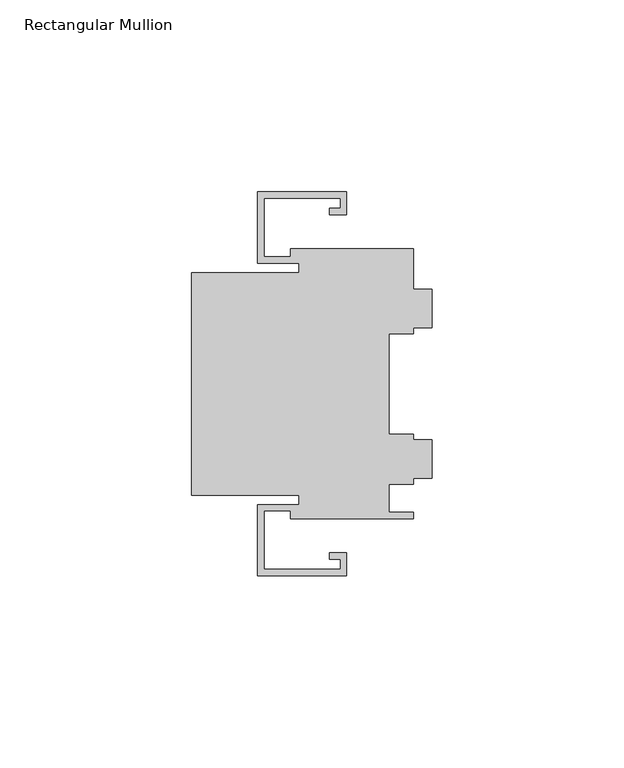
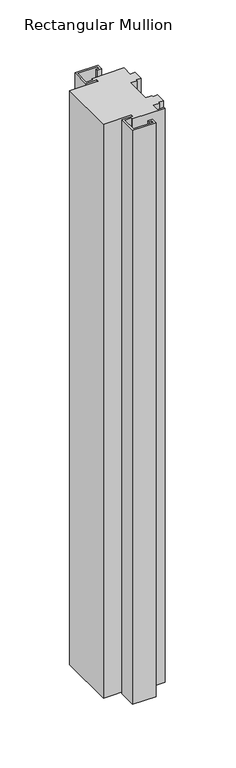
"""IFC4 building model written with IfcOpenShell, lengths in millimetres: member geometry, Rectangular Mullion : Frame-Teknion-OptosLP-Ceiling_Top_Spacer."""

import ifcopenshell
import ifcopenshell.guid

model = None  # the IFC model being written
_history = None  # IfcOwnerHistory: only IFC2X3 demands one
_inside = {}  # id of a spatial element -> (the spatial element, [elements in it])
_under = {}  # id of a project, library or spatial element -> (it, [spatial elements below it])
_declared = {}  # id of a project -> (the project, [libraries it declares])
_typed = {}  # id of a type object -> (the type object, [elements of that type])
_made_of = {}  # id of a material, layer set ... -> (it, [elements and type objects made of it])


def new_model(schema):
    """Start an empty IFC model of exactly this schema.

    Asked for "IFC4X3", IfcOpenShell would pick the latest addendum, in which some entities
    have other attributes; the version numbers below select the first issue.
    IFC2X3 requires an IfcOwnerHistory on every rooted entity: one is made here for all.
    """
    global model, _history
    if schema == "IFC4X3":
        model = ifcopenshell.file(schema_version=(4, 3, 0, 0))
    else:
        model = ifcopenshell.file(schema=schema)
    _inside.clear()
    _under.clear()
    _declared.clear()
    _typed.clear()
    _made_of.clear()
    _history = None
    if model.schema == "IFC2X3":
        org = make("IfcOrganization", Name="unknown")
        user = make(
            "IfcPersonAndOrganization",
            ThePerson=make("IfcPerson", FamilyName="unknown"),
            TheOrganization=org,
        )
        app = make(
            "IfcApplication",
            ApplicationDeveloper=org,
            Version="unknown",
            ApplicationFullName="unknown",
            ApplicationIdentifier="unknown",
        )
        _history = make(
            "IfcOwnerHistory",
            OwningUser=user,
            OwningApplication=app,
            ChangeAction="ADDED",
            CreationDate=0,
        )
    return model


def make(cls, **values):
    """One entity of the class cls with the attributes given. An attribute that is None is left unset."""
    return model.create_entity(
        cls, **{name: value for name, value in values.items() if value is not None}
    )


def rooted(cls, **values):
    """An entity with a GlobalId (a new one), such as an element, a storey or a relation."""
    return make(cls, GlobalId=ifcopenshell.guid.new(), OwnerHistory=_history, **values)


def si_unit(unit_type, name, prefix=None):
    """IfcSIUnit, for example si_unit("LENGTHUNIT", "METRE", prefix="MILLI")."""
    return make("IfcSIUnit", UnitType=unit_type, Prefix=prefix, Name=name)


def assignment(units):
    """IfcUnitAssignment: the units of a project."""
    return None if units is None else make("IfcUnitAssignment", Units=units)


def point(xyz):
    """IfcCartesianPoint."""
    return None if xyz is None else make("IfcCartesianPoint", Coordinates=xyz)


def direction(xyz):
    """IfcDirection."""
    return None if xyz is None else make("IfcDirection", DirectionRatios=xyz)


def frame(location, z_axis=None, x_axis=None):
    """IfcAxis2Placement3D, a coordinate frame: its origin and axes. An axis left out is left unset."""
    return make(
        "IfcAxis2Placement3D",
        Location=point(location),
        Axis=direction(z_axis),
        RefDirection=direction(x_axis),
    )


def origin():
    """The frame at (0, 0, 0) with its axes left unset."""
    return frame((0.0, 0.0, 0.0))


def place(relative_to, where):
    """IfcLocalPlacement: puts the frame where relative to a parent placement (None: the world)."""
    return make(
        "IfcLocalPlacement", PlacementRelTo=relative_to, RelativePlacement=where
    )


def context(
    kind, dimensions, precision=None, world=None, true_north=None, identifier=None
):
    """IfcGeometricRepresentationContext, for example the 3D "Model" context."""
    return make(
        "IfcGeometricRepresentationContext",
        ContextIdentifier=identifier,
        ContextType=kind,
        CoordinateSpaceDimension=dimensions,
        Precision=precision,
        WorldCoordinateSystem=world,
        TrueNorth=true_north,
    )


def project(units=None, contexts=None):
    """IfcProject with its units and contexts."""
    return rooted(
        "IfcProject",
        Name="project",
        RepresentationContexts=contexts,
        UnitsInContext=assignment(units),
    )


def spatial(cls, under=None, at=None, **own):
    """A site, building, storey or space (cls), placed at a placement, below another one or the project."""
    s = rooted(cls, ObjectPlacement=at, **own)
    if under is not None:
        _under.setdefault(under.id(), (under, []))[1].append(s)
    return s


def polyline(points):
    """IfcPolyline through the points."""
    return make("IfcPolyline", Points=[point(p) for p in points])


def outline(outer, holes=None, kind="AREA"):
    """IfcArbitraryClosedProfileDef: a profile drawn as a closed curve; with holes, ...WithVoids."""
    if holes is None:
        return make("IfcArbitraryClosedProfileDef", ProfileType=kind, OuterCurve=outer)
    return make(
        "IfcArbitraryProfileDefWithVoids",
        ProfileType=kind,
        OuterCurve=outer,
        InnerCurves=holes,
    )


def extrude(swept, where, along, depth):
    """IfcExtrudedAreaSolid: the profile swept, set in the frame where, extruded along a direction by depth."""
    return make(
        "IfcExtrudedAreaSolid",
        SweptArea=swept,
        Position=where,
        ExtrudedDirection=direction(along),
        Depth=depth,
    )


def shape(context_of_items, identifier, shape_type, items):
    """IfcShapeRepresentation: the items that make up one representation, for example the "Body"."""
    return make(
        "IfcShapeRepresentation",
        ContextOfItems=context_of_items,
        RepresentationIdentifier=identifier,
        RepresentationType=shape_type,
        Items=items,
    )


def source(mapping_origin, context_of_items, identifier, shape_type, items):
    """IfcRepresentationMap: a shape defined once, which mapped items show again and again."""
    return make(
        "IfcRepresentationMap",
        MappingOrigin=mapping_origin,
        MappedRepresentation=shape(context_of_items, identifier, shape_type, items),
    )


def transform(
    local_origin,
    x_axis=None,
    y_axis=None,
    z_axis=None,
    scale=None,
    scale2=None,
    scale3=None,
    uniform=True,
):
    """IfcCartesianTransformationOperator3D, or its non-uniform kind. x_axis, y_axis, z_axis: its Axis1, 2, 3."""
    if uniform:
        return make(
            "IfcCartesianTransformationOperator3D",
            Axis1=direction(x_axis),
            Axis2=direction(y_axis),
            LocalOrigin=point(local_origin),
            Scale=scale,
            Axis3=direction(z_axis),
        )
    return make(
        "IfcCartesianTransformationOperator3DnonUniform",
        Axis1=direction(x_axis),
        Axis2=direction(y_axis),
        LocalOrigin=point(local_origin),
        Scale=scale,
        Axis3=direction(z_axis),
        Scale2=scale2,
        Scale3=scale3,
    )


def mapped(mapping_source, mapping_target):
    """IfcMappedItem: shows the shape of a source again, moved by a transform."""
    return make(
        "IfcMappedItem", MappingSource=mapping_source, MappingTarget=mapping_target
    )


def made_of(thing, what):
    """Note that an element or type object is made of a material, layer set ...; save() writes the relation."""
    if what is not None:
        _made_of.setdefault(what.id(), (what, []))[1].append(thing)
    return thing


def element(
    cls,
    number,
    at=None,
    inside=None,
    cuts=None,
    type_object=None,
    material=None,
    context=None,
    identifier="Body",
    shape_type=None,
    held_by="IfcProductDefinitionShape",
    body=None,
    shapes=None,
    **own,
):
    """One element of the class cls, such as IfcWall. Its Tag is "e" and its number.

    at: its placement. inside: the storey or other place that contains it. cuts: it is an
    opening in that element (IfcRelVoidsElement). A single representation is given by context,
    identifier, shape_type and body (its items); several are given by shapes. held_by: the class
    of the entity that holds the representations. save() writes the other relations.
    """
    e = rooted(cls, Tag="e%d" % number, ObjectPlacement=at, **own)
    if body is not None:
        shapes = [shape(context, identifier, shape_type, body)]
    if shapes is not None:
        e.Representation = make(held_by, Representations=shapes)
    if inside is not None:
        _inside.setdefault(inside.id(), (inside, []))[1].append(e)
    if cuts is not None:
        rooted(
            "IfcRelVoidsElement", RelatingBuildingElement=cuts, RelatedOpeningElement=e
        )
    if type_object is not None:
        _typed.setdefault(type_object.id(), (type_object, []))[1].append(e)
    return made_of(e, material)


def aggregate(whole, parts):
    """IfcRelAggregates: a whole, such as a stair, and the parts it consists of."""
    return rooted("IfcRelAggregates", RelatingObject=whole, RelatedObjects=parts)


def save(model, path):
    """Write the relations noted so far, then the file.

    IfcRelAggregates (storeys below a building ...), IfcRelContainedInSpatialStructure (elements
    in a storey), IfcRelDefinesByType, IfcRelAssociatesMaterial and IfcRelDeclares: one each for
    every whole, place, type object, material and project.
    """
    for whole, parts in _under.values():
        aggregate(whole, parts)
    for where, things in _inside.values():
        rooted(
            "IfcRelContainedInSpatialStructure",
            RelatedElements=things,
            RelatingStructure=where,
        )
    for kind, things in _typed.values():
        rooted("IfcRelDefinesByType", RelatedObjects=things, RelatingType=kind)
    for what, things in _made_of.values():
        rooted("IfcRelAssociatesMaterial", RelatedObjects=things, RelatingMaterial=what)
    for by, libraries in _declared.values():
        rooted("IfcRelDeclares", RelatingContext=by, RelatedDefinitions=libraries)
    model.write(path)


def rectangular_mullion_f105aa23(model_context):
    return source(origin(), model_context, "Body", "SweptSolid", [
        extrude(outline(polyline([(-22.1967604, 49.9999002), (-22.1967604, 44.030901), (-26.6417618, 44.030901), (-26.6417618, 45.6819013), (-23.8477606, 45.6819013), (-23.8477606, 48.3488999), (-43.7867608, 48.3488999), (-43.7867608, 33.1089012), (-36.801761, 33.1089012), (-36.801761, 35.1409018), (-4.7977622, 35.1409018), (-4.7977622, 24.6315641), (0.0, 24.6315641), (0.0, 14.6103429), (-4.7762384, 14.6103429), (-4.7762384, 13.0810002), (-11.1477617, 13.0810002), (-11.1477617, -13.0810002), (-4.7977622, -13.0810002), (-4.7977622, -14.6111051), (0.0, -14.6111051), (0.0, -24.6323263), (-4.7977622, -24.6323263), (-4.7977622, -26.1620004), (-11.1450644, -26.1620004), (-11.1450644, -33.4899016), (-4.7762384, -33.4899016), (-4.7762384, -35.1409018), (-36.801761, -35.1409018), (-36.801761, -33.1089012), (-43.7867608, -33.1089012), (-43.7867608, -48.3488999), (-23.8477606, -48.3488999), (-23.8477606, -45.6819013), (-26.6417618, -45.6819013), (-26.6417618, -44.030901), (-22.1967604, -44.030901), (-22.1967604, -49.9999002), (-45.4377611, -49.9999002), (-45.4377611, -31.457901), (-34.6173606, -31.457901), (-34.6173606, -28.9941), (-62.608161, -28.9941), (-62.608161, 28.9941), (-34.6173606, 28.9941), (-34.6173606, 31.457901), (-45.4377611, 31.457901), (-45.4377611, 49.9999002), (-22.1967604, 49.9999002)])), frame((0.0, 0.0, -605.7316121), z_axis=(0.0, 0.0, 1.0), x_axis=(1.0, 0.0, 0.0)), (0.0, 0.0, 1.0), 605.7316121),
    ])


if __name__ == "__main__":
    model = new_model("IFC4")
    model_context = context("Model", 3, world=origin())
    ifc_project = project(units=[si_unit("LENGTHUNIT", "METRE", prefix="MILLI")], contexts=[model_context])
    site = spatial("IfcSite", under=ifc_project)
    building = spatial("IfcBuilding", under=site)
    placement = place(None, origin())
    rectangular_mullion_shape = rectangular_mullion_f105aa23(model_context)
    element("IfcMember", 1, ObjectType="Rectangular Mullion : Frame-Teknion-OptosLP-Ceiling_Top_Spacer", at=placement, inside=building, context=model_context, shape_type="MappedRepresentation", body=[
        mapped(rectangular_mullion_shape, transform((0.0, 0.0, 0.0), x_axis=(1.0, 0.0, 0.0), y_axis=(0.0, 1.0, 0.0), z_axis=(0.0, 0.0, 1.0))),
    ])
    save(model, "model.ifc")
